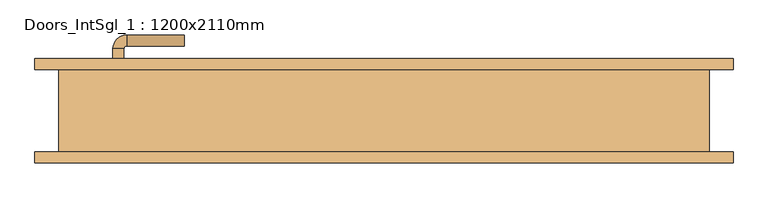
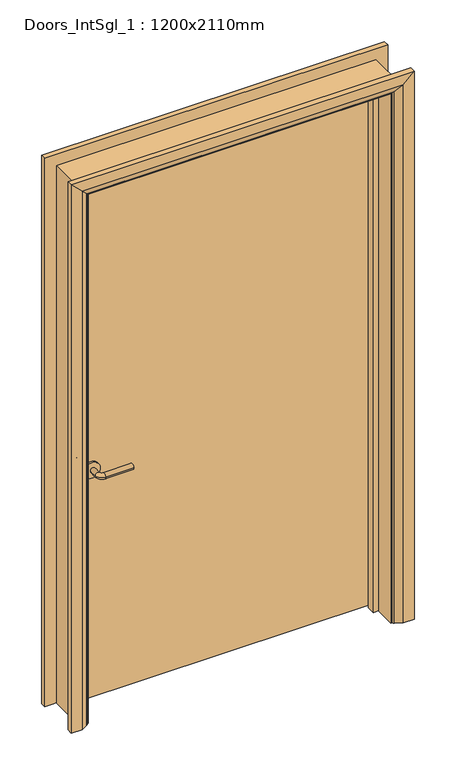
"""IFC4 building model written with IfcOpenShell, lengths in millimetres: door geometry, Doors_IntSgl_1 : 1200x2110mm."""

from ifc_helpers import new_model, si_unit, point, frame, frame_2d, origin, place, context, project, spatial, polyline, circle_curve, ellipse_curve, trimmed, segment, composite_curve, outline, extrude, faceted_brep, source, transform, mapped, element, save
from ifc_brep_helpers import plane_surface, cylinder_surface, revolved_surface, advanced_brep


def doors_intsgl_1_1200x2110mm_e831e5cc(model_context):
    return source(origin(), model_context, "Body", "SolidModel", [
        advanced_brep(
        [(-493.0, 29.0, 900.0), (-473.0, 29.0, 900.0), (-473.0, -1.0, 900.0), (-493.0, -1.0, 900.0), (-468.0, -6.0, 900.0), (-468.0, -26.0, 900.0), (-363.0, -26.0, 900.0), (-363.0, -6.0, 900.0)],
        [
            (0, 1, circle_curve(frame((-483.0, 29.0, 900.0), z_axis=(0.0, 1.0, 0.0), x_axis=(1.0, 0.0, 0.0)), 10.0)),
            (1, 0, circle_curve(frame((-483.0, 29.0, 900.0), z_axis=(0.0, 1.0, 0.0), x_axis=(1.0, 0.0, 0.0)), 10.0)),
            (1, 2),
            (2, 3, circle_curve(frame((-483.0, -1.0, 900.0), z_axis=(0.0, 1.0, 0.0), x_axis=(1.0, 0.0, 0.0)), 10.0)),
            (3, 0),
            (3, 2, circle_curve(frame((-483.0, -1.0, 900.0), z_axis=(0.0, 1.0, 0.0), x_axis=(1.0, 0.0, 0.0)), 10.0)),
            (4, 5, circle_curve(frame((-468.0, -16.0, 900.0), z_axis=(-1.0, 0.0, 0.0), x_axis=(0.0, 1.0, 0.0)), 10.0)),
            (5, 3, circle_curve(frame((-468.0, -1.0, 900.0), z_axis=(0.0, 0.0, -1.0), x_axis=(-1.0, 0.0, 0.0)), 25.0)),
            (2, 4, circle_curve(frame((-468.0, -1.0, 900.0), z_axis=(0.0, 0.0, 1.0), x_axis=(-1.0, 0.0, 0.0)), 5.0)),
            (5, 4, circle_curve(frame((-468.0, -16.0, 900.0), z_axis=(-1.0, 0.0, 0.0), x_axis=(0.0, 1.0, 0.0)), 10.0)),
            (6, 7, circle_curve(frame((-363.0, -16.0, 900.0), z_axis=(1.0, 0.0, 0.0), x_axis=(0.0, 1.0, 0.0)), 10.0)),
            (7, 6, circle_curve(frame((-363.0, -16.0, 900.0), z_axis=(1.0, 0.0, 0.0), x_axis=(0.0, 1.0, 0.0)), 10.0)),
            (4, 7),
            (6, 5),
        ],
        [
            plane_surface(frame((-483.0, 29.0, 900.0), z_axis=(0.0, 1.0, 0.0), x_axis=(0.0, 0.0, 1.0))),
            cylinder_surface(frame((-483.0, 29.0, 900.0), z_axis=(0.0, 1.0, 0.0), x_axis=(1.0, 0.0, 0.0)), 10.0),
            revolved_surface(trimmed(ellipse_curve(frame((-483.0, -1.0, 900.0), z_axis=(0.0, -1.0, 0.0), x_axis=(1.0, 0.0, 0.0)), 10.0, 10.0), [point((-493.0, -1.0, 900.0))], [point((-473.0, -1.0, 900.0))], True, "CARTESIAN"), (-468.0, -1.0, 900.0), (0.0, 0.0, -1.0)),
            revolved_surface(trimmed(ellipse_curve(frame((-483.0, -1.0, 900.0), z_axis=(0.0, -1.0, 0.0), x_axis=(1.0, 0.0, 0.0)), 10.0, 10.0), [point((-473.0, -1.0, 900.0))], [point((-493.0, -1.0, 900.0))], True, "CARTESIAN"), (-468.0, -1.0, 900.0), (0.0, 0.0, -1.0)),
            plane_surface(frame((-363.0, -16.0, 900.0), z_axis=(1.0, 0.0, 0.0), x_axis=(0.0, 0.0, 1.0))),
            cylinder_surface(frame((-468.0, -16.0, 900.0), z_axis=(-1.0, 0.0, 0.0), x_axis=(0.0, 1.0, 0.0)), 10.0),
        ],
        [
            (0, [[1, 2]]),
            (1, [[3, 4, 5, -2]]),
            (1, [[-5, 6, -3, -1]]),
            (2, [[7, 8, -4, 9]]),
            (3, [[10, -9, -6, -8]]),
            (4, [[11, 12]]),
            (5, [[13, -11, 14, -7]]),
            (5, [[-14, -12, -13, -10]]),
        ],
    ),
        extrude(outline(composite_curve([segment(trimmed(circle_curve(frame_2d((900.0, -485.5)), 30.0), [point((900.0, -515.5))], [point((900.0, -455.5))], False, "CARTESIAN"), True, "CONTINUOUS"), segment(trimmed(circle_curve(frame_2d((900.0, -485.5)), 30.0), [point((900.0, -455.5))], [point((900.0, -515.5))], False, "CARTESIAN"), True, "CONTINUOUS")], self_intersect=False)), frame((0.0, 29.0, 0.0), z_axis=(0.0, 1.0, 0.0), x_axis=(0.0, 0.0, 1.0)), (0.0, 0.0, 1.0), 8.0),
        advanced_brep(
        [(-493.0, 83.0, 900.0), (-473.0, 83.0, 900.0), (-493.0, 113.0, 900.0), (-473.0, 113.0, 900.0), (-468.0, 118.0, 900.0), (-468.0, 138.0, 900.0), (-363.0, 138.0, 900.0), (-363.0, 118.0, 900.0)],
        [
            (0, 1, circle_curve(frame((-483.0, 83.0, 900.0), z_axis=(0.0, -1.0, 0.0), x_axis=(1.0, 0.0, 0.0)), 10.0)),
            (1, 0, circle_curve(frame((-483.0, 83.0, 900.0), z_axis=(0.0, -1.0, 0.0), x_axis=(1.0, 0.0, 0.0)), 10.0)),
            (0, 2),
            (2, 3, circle_curve(frame((-483.0, 113.0, 900.0), z_axis=(0.0, -1.0, 0.0), x_axis=(1.0, 0.0, 0.0)), 10.0)),
            (3, 1),
            (3, 2, circle_curve(frame((-483.0, 113.0, 900.0), z_axis=(0.0, -1.0, 0.0), x_axis=(1.0, 0.0, 0.0)), 10.0)),
            (4, 3, circle_curve(frame((-468.0, 113.0, 900.0), z_axis=(0.0, 0.0, 1.0), x_axis=(-1.0, 0.0, 0.0)), 5.0)),
            (2, 5, circle_curve(frame((-468.0, 113.0, 900.0), z_axis=(0.0, 0.0, -1.0), x_axis=(-1.0, 0.0, 0.0)), 25.0)),
            (5, 4, circle_curve(frame((-468.0, 128.0, 900.0), z_axis=(-1.0, 0.0, 0.0), x_axis=(0.0, -1.0, 0.0)), 10.0)),
            (4, 5, circle_curve(frame((-468.0, 128.0, 900.0), z_axis=(-1.0, 0.0, 0.0), x_axis=(0.0, -1.0, 0.0)), 10.0)),
            (6, 7, circle_curve(frame((-363.0, 128.0, 900.0), z_axis=(1.0, 0.0, 0.0), x_axis=(0.0, -1.0, 0.0)), 10.0)),
            (7, 6, circle_curve(frame((-363.0, 128.0, 900.0), z_axis=(1.0, 0.0, 0.0), x_axis=(0.0, -1.0, 0.0)), 10.0)),
            (5, 6),
            (7, 4),
        ],
        [
            plane_surface(frame((-483.0, 83.0, 900.0), z_axis=(0.0, -1.0, 0.0), x_axis=(0.0, 0.0, 1.0))),
            cylinder_surface(frame((-483.0, 83.0, 900.0), z_axis=(0.0, -1.0, 0.0), x_axis=(1.0, 0.0, 0.0)), 10.0),
            revolved_surface(trimmed(ellipse_curve(frame((-483.0, 113.0, 900.0), z_axis=(0.0, -1.0, 0.0), x_axis=(1.0, 0.0, 0.0)), 10.0, 10.0), [point((-493.0, 113.0, 900.0))], [point((-473.0, 113.0, 900.0))], True, "CARTESIAN"), (-468.0, 113.0, 900.0), (0.0, 0.0, -1.0)),
            revolved_surface(trimmed(ellipse_curve(frame((-483.0, 113.0, 900.0), z_axis=(0.0, -1.0, 0.0), x_axis=(1.0, 0.0, 0.0)), 10.0, 10.0), [point((-473.0, 113.0, 900.0))], [point((-493.0, 113.0, 900.0))], True, "CARTESIAN"), (-468.0, 113.0, 900.0), (0.0, 0.0, -1.0)),
            plane_surface(frame((-363.0, 128.0, 900.0), z_axis=(1.0, 0.0, 0.0), x_axis=(0.0, 0.0, 1.0))),
            cylinder_surface(frame((-468.0, 128.0, 900.0), z_axis=(-1.0, 0.0, 0.0), x_axis=(0.0, -1.0, 0.0)), 10.0),
        ],
        [
            (0, [[1, 2]]),
            (1, [[-1, 3, 4, 5]]),
            (1, [[-2, -5, 6, -3]]),
            (2, [[7, -4, 8, 9]]),
            (3, [[-8, -6, -7, 10]]),
            (4, [[11, 12]]),
            (5, [[-9, 13, -12, 14]]),
            (5, [[-10, -14, -11, -13]]),
        ],
    ),
        extrude(outline(composite_curve([segment(trimmed(circle_curve(frame_2d((900.0, -485.5)), 30.0), [point((900.0, -515.5))], [point((900.0, -455.5))], False, "CARTESIAN"), True, "CONTINUOUS"), segment(trimmed(circle_curve(frame_2d((900.0, -485.5)), 30.0), [point((900.0, -455.5))], [point((900.0, -515.5))], False, "CARTESIAN"), True, "CONTINUOUS")], self_intersect=False)), frame((0.0, 75.0, 0.0), z_axis=(0.0, 1.0, 0.0), x_axis=(0.0, 0.0, 1.0)), (0.0, 0.0, 1.0), 8.0),
        extrude(outline(polyline([(558.0, 37.0), (-558.0, 37.0), (-558.0, 75.0), (558.0, 75.0), (558.0, 37.0)])), frame((0.0, 0.0, 8.0), z_axis=(0.0, 0.0, 1.0), x_axis=(1.0, 0.0, 0.0)), (0.0, 0.0, 1.0), 2060.0),
        advanced_brep(
        [(635.0, 95.0, 0.0), (635.0, 75.0, 0.0), (565.0, 75.0, 0.0), (569.0, 81.0, 0.0), (595.0, 95.0, 0.0), (635.0, 95.0, 2145.0), (635.0, 75.0, 2145.0), (-635.0, 75.0, 2145.0), (-635.0, 75.0, 0.0), (-565.0, 75.0, 0.0), (-565.0, 75.0, 2075.0), (565.0, 75.0, 2075.0), (569.0, 81.0, 2079.0), (595.0, 95.0, 2105.0), (-595.0, 95.0, 2105.0), (-595.0, 95.0, 0.0), (-635.0, 95.0, 0.0), (-635.0, 95.0, 2145.0), (-569.0, 81.0, 0.0), (-569.0, 81.0, 2079.0)],
        [
            (0, 1),
            (1, 2),
            (2, 3, circle_curve(frame((573.0, 74.0, 0.0), z_axis=(0.0, 0.0, -1.0), x_axis=(1.0, 0.0, 0.0)), 8.0622577)),
            (3, 4),
            (4, 0),
            (0, 5),
            (5, 6),
            (6, 1),
            (6, 7),
            (7, 8),
            (8, 9),
            (9, 10),
            (10, 11),
            (11, 2),
            (11, 12, ellipse_curve(frame((573.0, 74.0, 2083.0), z_axis=(0.7071067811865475, 0.0, -0.7071067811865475), x_axis=(-0.7071067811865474, 0.0, -0.7071067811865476)), 11.4017543, 8.0622577)),
            (12, 3),
            (12, 13),
            (13, 4),
            (13, 14),
            (14, 15),
            (15, 16),
            (16, 17),
            (17, 5),
            (7, 17),
            (16, 8),
            (15, 18),
            (18, 9, circle_curve(frame((-573.0, 74.0, 0.0), z_axis=(0.0, 0.0, -1.0), x_axis=(-1.0, 0.0, 0.0)), 8.0622577)),
            (19, 10, ellipse_curve(frame((-573.0, 74.0, 2083.0), z_axis=(-0.7071067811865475, 0.0, -0.7071067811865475), x_axis=(-0.7071067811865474, 0.0, 0.7071067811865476)), 11.4017543, 8.0622577)),
            (18, 19),
            (14, 19),
            (19, 12),
        ],
        [
            plane_surface(frame((565.0, 75.0, 0.0), z_axis=(0.0, 0.0, -1.0), x_axis=(0.0, -1.0, 0.0))),
            plane_surface(frame((635.0, 95.0, 0.0), z_axis=(1.0, 0.0, 0.0), x_axis=(0.0, 0.0, 1.0))),
            plane_surface(frame((635.0, 75.0, 0.0), z_axis=(0.0, -1.0, 0.0), x_axis=(0.0, 0.0, 1.0))),
            cylinder_surface(frame((573.0, 74.0, 0.0), z_axis=(0.0, 0.0, -1.0), x_axis=(1.0, 0.0, 0.0)), 8.0622577),
            plane_surface(frame((569.0, 81.0, 0.0), z_axis=(-0.4740998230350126, 0.880471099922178, 0.0), x_axis=(0.0, 0.0, 1.0))),
            plane_surface(frame((595.0, 95.0, 0.0), z_axis=(0.0, 1.0, 0.0), x_axis=(0.0, 0.0, 1.0))),
            plane_surface(frame((-635.0, 95.0, 2145.0), z_axis=(-1.0, 0.0, 0.0), x_axis=(0.0, 0.0, -1.0))),
            plane_surface(frame((-565.0, 75.0, 0.0), z_axis=(0.0, 0.0, -1.0), x_axis=(0.0, -1.0, 0.0))),
            cylinder_surface(frame((-573.0, 74.0, 2075.0), z_axis=(0.0, 0.0, 1.0), x_axis=(-1.0, 0.0, 0.0)), 8.0622577),
            plane_surface(frame((-569.0, 81.0, 2079.0), z_axis=(0.47409982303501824, 0.8804710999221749, 0.0), x_axis=(0.0, 0.0, -1.0))),
            plane_surface(frame((635.0, 95.0, 2145.0), z_axis=(0.0, 0.0, 1.0), x_axis=(-1.0, 0.0, 0.0))),
            cylinder_surface(frame((565.0, 74.0, 2083.0), z_axis=(1.0, 0.0, 0.0), x_axis=(0.0, 0.0, 1.0)), 8.0622577),
            plane_surface(frame((569.0, 81.0, 2079.0), z_axis=(0.0, 0.8804710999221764, -0.4740998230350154), x_axis=(-1.0, 0.0, 0.0))),
        ],
        [
            (0, [[1, 2, 3, 4, 5]]),
            (1, [[-1, 6, 7, 8]]),
            (2, [[-2, -8, 9, 10, 11, 12, 13, 14]]),
            (3, [[-3, -14, 15, 16]]),
            (4, [[-4, -16, 17, 18]]),
            (5, [[-5, -18, 19, 20, 21, 22, 23, -6]]),
            (6, [[24, -22, 25, -10]]),
            (7, [[-21, 26, 27, -11, -25]]),
            (8, [[28, -12, -27, 29]]),
            (9, [[30, -29, -26, -20]]),
            (10, [[-7, -23, -24, -9]]),
            (11, [[-15, -13, -28, 31]]),
            (12, [[-17, -31, -30, -19]]),
        ],
    ),
        extrude(outline(polyline([(0.0, -560.0), (0.0, -541.0), (2051.0, -541.0), (2051.0, 541.0), (0.0, 541.0), (0.0, 560.0), (2070.0, 560.0), (2070.0, -560.0), (0.0, -560.0)])), frame((0.0, 3.0, 0.0), z_axis=(0.0, 1.0, 0.0), x_axis=(0.0, 0.0, 1.0)), (0.0, 0.0, 1.0), 32.0),
        advanced_brep(
        [(-635.0, -95.0, 0.0), (-635.0, -75.0, 0.0), (-565.0, -75.0, 0.0), (-569.0, -81.0, 0.0), (-595.0, -95.0, 0.0), (-635.0, -95.0, 2145.0), (-635.0, -75.0, 2145.0), (-565.0, -75.0, 2075.0), (-569.0, -81.0, 2079.0), (-595.0, -95.0, 2105.0), (635.0, -95.0, 0.0), (595.0, -95.0, 0.0), (569.0, -81.0, 0.0), (565.0, -75.0, 0.0), (635.0, -75.0, 0.0), (635.0, -95.0, 2145.0), (595.0, -95.0, 2105.0), (569.0, -81.0, 2079.0), (565.0, -75.0, 2075.0), (635.0, -75.0, 2145.0)],
        [
            (0, 1),
            (1, 2),
            (2, 3, circle_curve(frame((-573.0, -74.0, 0.0), z_axis=(0.0, 0.0, -1.0), x_axis=(-1.0, 0.0, 0.0)), 8.0622577)),
            (3, 4),
            (4, 0),
            (0, 5),
            (5, 6),
            (6, 1),
            (6, 7),
            (7, 2),
            (7, 8, ellipse_curve(frame((-573.0, -74.0, 2083.0), z_axis=(-0.7071067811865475, 0.0, -0.7071067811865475), x_axis=(0.7071067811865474, 0.0, -0.7071067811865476)), 11.4017543, 8.0622577)),
            (8, 3),
            (8, 9),
            (9, 4),
            (9, 5),
            (10, 11),
            (11, 12),
            (12, 13, circle_curve(frame((573.0, -74.0, 0.0), z_axis=(0.0, 0.0, -1.0), x_axis=(1.0, 0.0, 0.0)), 8.0622577)),
            (13, 14),
            (14, 10),
            (15, 16),
            (16, 11),
            (10, 15),
            (16, 17),
            (17, 12),
            (17, 18, ellipse_curve(frame((573.0, -74.0, 2083.0), z_axis=(0.7071067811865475, 0.0, -0.7071067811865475), x_axis=(0.7071067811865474, 0.0, 0.7071067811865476)), 11.4017543, 8.0622577)),
            (18, 13),
            (18, 19),
            (19, 14),
            (19, 15),
            (5, 15),
            (19, 6),
            (18, 7),
            (17, 8),
            (16, 9),
        ],
        [
            plane_surface(frame((-565.0, -147.8010989, 0.0), z_axis=(0.0, 0.0, -1.0), x_axis=(1.0, 0.0, 0.0))),
            plane_surface(frame((-635.0, -95.0, 0.0), z_axis=(-1.0, 0.0, 0.0), x_axis=(0.0, 0.0, 1.0))),
            plane_surface(frame((-635.0, -75.0, 0.0), z_axis=(0.0, 1.0, 0.0), x_axis=(0.0, 0.0, 1.0))),
            cylinder_surface(frame((-573.0, -74.0, 0.0), z_axis=(0.0, 0.0, -1.0), x_axis=(-1.0, 0.0, 0.0)), 8.0622577),
            plane_surface(frame((-569.0, -81.0, 0.0), z_axis=(0.4740998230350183, -0.8804710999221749, 0.0), x_axis=(0.0, 0.0, 1.0))),
            plane_surface(frame((-595.0, -95.0, 0.0), z_axis=(0.0, -1.0, 0.0), x_axis=(0.0, 0.0, 1.0))),
            plane_surface(frame((565.0, -147.8010989, 0.0), z_axis=(0.0, 0.0, -1.0), x_axis=(-1.0, 0.0, 0.0))),
            plane_surface(frame((595.0, -95.0, 2105.0), z_axis=(0.0, -1.0, 0.0), x_axis=(0.0, 0.0, -1.0))),
            plane_surface(frame((569.0, -81.0, 2079.0), z_axis=(-0.4740998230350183, -0.8804710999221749, 0.0), x_axis=(0.0, 0.0, -1.0))),
            cylinder_surface(frame((573.0, -74.0, 2075.0), z_axis=(0.0, 0.0, 1.0), x_axis=(1.0, 0.0, 0.0)), 8.0622577),
            plane_surface(frame((635.0, -75.0, 2145.0), z_axis=(0.0, 1.0, 0.0), x_axis=(0.0, 0.0, -1.0))),
            plane_surface(frame((635.0, -95.0, 2145.0), z_axis=(1.0, 0.0, 0.0), x_axis=(0.0, 0.0, -1.0))),
            plane_surface(frame((-635.0, -95.0, 2145.0), z_axis=(0.0, 0.0, 1.0), x_axis=(1.0, 0.0, 0.0))),
            plane_surface(frame((-635.0, -75.0, 2145.0), z_axis=(0.0, 1.0, 0.0), x_axis=(1.0, 0.0, 0.0))),
            cylinder_surface(frame((-565.0, -74.0, 2083.0), z_axis=(-1.0, 0.0, 0.0), x_axis=(0.0, 0.0, 1.0)), 8.0622577),
            plane_surface(frame((-569.0, -81.0, 2079.0), z_axis=(0.0, -0.8804710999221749, -0.4740998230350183), x_axis=(1.0, 0.0, 0.0))),
            plane_surface(frame((-595.0, -95.0, 2105.0), z_axis=(0.0, -1.0, 0.0), x_axis=(1.0, 0.0, 0.0))),
        ],
        [
            (0, [[1, 2, 3, 4, 5]]),
            (1, [[-1, 6, 7, 8]]),
            (2, [[-2, -8, 9, 10]]),
            (3, [[-3, -10, 11, 12]]),
            (4, [[-4, -12, 13, 14]]),
            (5, [[-5, -14, 15, -6]]),
            (6, [[16, 17, 18, 19, 20]]),
            (7, [[21, 22, -16, 23]]),
            (8, [[24, 25, -17, -22]]),
            (9, [[26, 27, -18, -25]]),
            (10, [[28, 29, -19, -27]]),
            (11, [[30, -23, -20, -29]]),
            (12, [[-7, 31, -30, 32]]),
            (13, [[-9, -32, -28, 33]]),
            (14, [[-11, -33, -26, 34]]),
            (15, [[-13, -34, -24, 35]]),
            (16, [[-15, -35, -21, -31]]),
        ],
    ),
        faceted_brep([(-560.0, 75.0, 0.0), (-560.0, -75.0, 0.0), (-592.0, -75.0, 0.0), (-592.0, 75.0, 0.0), (-560.0, 75.0, 2070.0), (-560.0, -75.0, 2070.0), (-592.0, -75.0, 2102.0), (-592.0, 75.0, 2102.0), (560.0, 75.0, 0.0), (592.0, 75.0, 0.0), (592.0, -75.0, 0.0), (560.0, -75.0, 0.0), (560.0, 75.0, 2070.0), (592.0, 75.0, 2102.0), (592.0, -75.0, 2102.0), (560.0, -75.0, 2070.0)], [[[0, 1, 2, 3]], [[1, 0, 4, 5]], [[2, 1, 5, 6]], [[3, 2, 6, 7]], [[0, 3, 7, 4]], [[8, 9, 10, 11]], [[12, 13, 9, 8]], [[13, 14, 10, 9]], [[14, 15, 11, 10]], [[15, 12, 8, 11]], [[5, 4, 12, 15]], [[6, 5, 15, 14]], [[7, 6, 14, 13]], [[4, 7, 13, 12]]]),
    ])


if __name__ == "__main__":
    model = new_model("IFC4")
    model_context = context("Model", 3, world=origin())
    ifc_project = project(units=[si_unit("LENGTHUNIT", "METRE", prefix="MILLI")], contexts=[model_context])
    site = spatial("IfcSite", under=ifc_project)
    building = spatial("IfcBuilding", under=site)
    placement = place(None, origin())
    doors_intsgl_1_1200x2110mm_shape = doors_intsgl_1_1200x2110mm_e831e5cc(model_context)
    element("IfcDoor", 1, ObjectType="Doors_IntSgl_1 : 1200x2110mm", at=placement, inside=building, context=model_context, shape_type="MappedRepresentation", body=[
        mapped(doors_intsgl_1_1200x2110mm_shape, transform((0.0, 0.0, 0.0), x_axis=(1.0, 0.0, 0.0), y_axis=(0.0, 1.0, 0.0), z_axis=(0.0, 0.0, 1.0))),
    ])
    save(model, "model.ifc")
